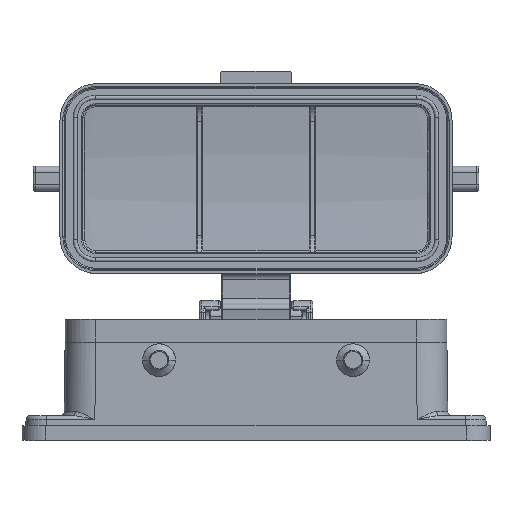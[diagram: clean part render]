
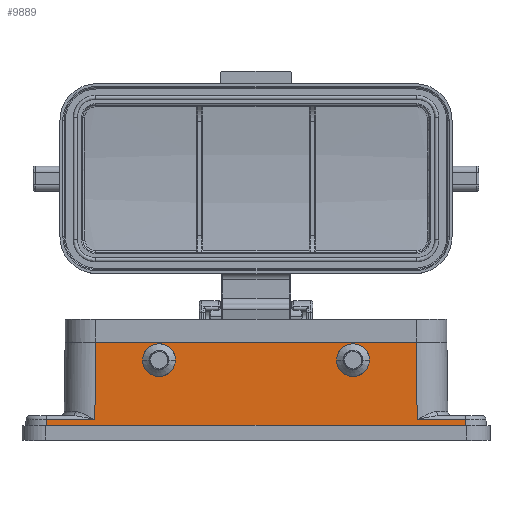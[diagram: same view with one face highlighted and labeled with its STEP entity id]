
A CAD part, top view. The second image highlights one B-rep face of the part: STEP entity #9889.
In plain terms, the highlighted planar face has unit normal (0, 0.011, 1).
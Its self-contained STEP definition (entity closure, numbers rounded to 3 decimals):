
#209 = DIRECTION ( 'NONE',  ( -0.07, -0.998, 0.011 ) ) ;
#406 = CARTESIAN_POINT ( 'NONE',  ( 27.75, 9.6, 21.641 ) ) ;
#1070 = FACE_BOUND ( 'NONE', #13016, .T. ) ;
#1172 =( BOUNDED_CURVE ( )  B_SPLINE_CURVE ( 3, ( #5221, #25931, #5548, #7743 ),
 .UNSPECIFIED., .F., .F. ) 
 B_SPLINE_CURVE_WITH_KNOTS ( ( 4, 4 ),
 ( 1.571, 4.712 ),
 .UNSPECIFIED. ) 
 CURVE ( )  GEOMETRIC_REPRESENTATION_ITEM ( )  RATIONAL_B_SPLINE_CURVE ( ( 1., 0.333, 0.333, 1. ) ) 
 REPRESENTATION_ITEM ( '' )  );
#1485 = CARTESIAN_POINT ( 'NONE',  ( -58.975, 3.011, 21.715 ) ) ;
#2581 = CARTESIAN_POINT ( 'NONE',  ( 51.492, 0., 21.75 ) ) ;
#2585 = ORIENTED_EDGE ( 'NONE', *, *, #14758, .T. ) ;
#2817 =( BOUNDED_CURVE ( )  B_SPLINE_CURVE ( 3, ( #20991, #406, #18292, #5541 ),
 .UNSPECIFIED., .F., .F. ) 
 B_SPLINE_CURVE_WITH_KNOTS ( ( 4, 4 ),
 ( 1.571, 4.712 ),
 .UNSPECIFIED. ) 
 CURVE ( )  GEOMETRIC_REPRESENTATION_ITEM ( )  RATIONAL_B_SPLINE_CURVE ( ( 1., 0.333, 0.333, 1. ) ) 
 REPRESENTATION_ITEM ( '' )  );
#3339 = VERTEX_POINT ( 'NONE', #21936 ) ;
#3520 = CARTESIAN_POINT ( 'NONE',  ( -27.75, 17.6, 21.55 ) ) ;
#3576 = EDGE_CURVE ( 'NONE', #24100, #23076, #4231, .T. ) ;
#3990 = VECTOR ( 'NONE', #31867, 1000. ) ;
#4064 = AXIS2_PLACEMENT_3D ( 'NONE', #24073, #11375, #26888 ) ;
#4231 = LINE ( 'NONE', #20454, #17403 ) ;
#4941 = CARTESIAN_POINT ( 'NONE',  ( -39.25, 22., 21.5 ) ) ;
#5221 = CARTESIAN_POINT ( 'NONE',  ( -27.75, 17.6, 21.55 ) ) ;
#5541 = CARTESIAN_POINT ( 'NONE',  ( 19.75, 17.6, 21.55 ) ) ;
#5548 = CARTESIAN_POINT ( 'NONE',  ( -19.75, 25.6, 21.459 ) ) ;
#5720 = VERTEX_POINT ( 'NONE', #23788 ) ;
#5784 = ORIENTED_EDGE ( 'NONE', *, *, #20562, .T. ) ;
#5795 = CARTESIAN_POINT ( 'NONE',  ( 39.247, 22.306, 21.497 ) ) ;
#5928 = LINE ( 'NONE', #8515, #23950 ) ;
#6735 = ORIENTED_EDGE ( 'NONE', *, *, #3576, .T. ) ;
#7112 = CARTESIAN_POINT ( 'NONE',  ( 39.25, 22., 21.5 ) ) ;
#7386 = CARTESIAN_POINT ( 'NONE',  ( -39.25, 22., 21.5 ) ) ;
#7479 = EDGE_CURVE ( 'NONE', #28603, #20190, #19572, .T. ) ;
#7494 = ORIENTED_EDGE ( 'NONE', *, *, #13603, .T. ) ;
#7743 = CARTESIAN_POINT ( 'NONE',  ( -19.75, 17.6, 21.55 ) ) ;
#8515 = CARTESIAN_POINT ( 'NONE',  ( -58.975, 3.011, 21.715 ) ) ;
#8706 = CARTESIAN_POINT ( 'NONE',  ( -19.75, 17.6, 21.55 ) ) ;
#8969 = VERTEX_POINT ( 'NONE', #12796 ) ;
#9119 = CARTESIAN_POINT ( 'NONE',  ( 51.492, 0., 21.75 ) ) ;
#9271 = DIRECTION ( 'NONE',  ( -1., 0., 0. ) ) ;
#9652 = CARTESIAN_POINT ( 'NONE',  ( 39.466, 3.011, 21.715 ) ) ;
#9889 = ADVANCED_FACE ( 'NONE', ( #1070, #13457, #13019 ), #29043, .T. ) ;
#9982 = DIRECTION ( 'NONE',  ( 1., 0., 0. ) ) ;
#10540 = ORIENTED_EDGE ( 'NONE', *, *, #30590, .T. ) ;
#10686 = CARTESIAN_POINT ( 'NONE',  ( 19.75, 25.6, 21.459 ) ) ;
#11058 = CARTESIAN_POINT ( 'NONE',  ( -27.75, 17.6, 21.55 ) ) ;
#11144 = VECTOR ( 'NONE', #9271, 1000. ) ;
#11280 = VECTOR ( 'NONE', #9982, 1000. ) ;
#11329 = VERTEX_POINT ( 'NONE', #11058 ) ;
#11375 = DIRECTION ( 'NONE',  ( 0., 0.011, 1. ) ) ;
#11963 = CARTESIAN_POINT ( 'NONE',  ( -51.492, 0., 21.75 ) ) ;
#12708 = ORIENTED_EDGE ( 'NONE', *, *, #7479, .F. ) ;
#12796 = CARTESIAN_POINT ( 'NONE',  ( 27.75, 17.6, 21.55 ) ) ;
#12931 = ORIENTED_EDGE ( 'NONE', *, *, #24176, .T. ) ;
#13016 = EDGE_LOOP ( 'NONE', ( #7494, #12931 ) ) ;
#13019 = FACE_OUTER_BOUND ( 'NONE', #29210, .T. ) ;
#13244 = ORIENTED_EDGE ( 'NONE', *, *, #29390, .F. ) ;
#13457 = FACE_BOUND ( 'NONE', #14637, .T. ) ;
#13603 = EDGE_CURVE ( 'NONE', #3339, #11329, #28309, .T. ) ;
#13744 = ORIENTED_EDGE ( 'NONE', *, *, #19833, .T. ) ;
#14079 = LINE ( 'NONE', #25359, #11280 ) ;
#14349 = VECTOR ( 'NONE', #21235, 1000. ) ;
#14618 = VERTEX_POINT ( 'NONE', #9119 ) ;
#14637 = EDGE_LOOP ( 'NONE', ( #13744, #19521 ) ) ;
#14758 = EDGE_CURVE ( 'NONE', #23076, #14618, #14079, .T. ) ;
#16424 = CARTESIAN_POINT ( 'NONE',  ( -27.75, 9.6, 21.641 ) ) ;
#17387 = LINE ( 'NONE', #2581, #30269 ) ;
#17403 = VECTOR ( 'NONE', #209, 1000. ) ;
#18292 = CARTESIAN_POINT ( 'NONE',  ( 19.75, 9.6, 21.641 ) ) ;
#18346 = CARTESIAN_POINT ( 'NONE',  ( 19.75, 17.6, 21.55 ) ) ;
#18815 = LINE ( 'NONE', #4941, #26458 ) ;
#19521 = ORIENTED_EDGE ( 'NONE', *, *, #27552, .T. ) ;
#19572 = LINE ( 'NONE', #5795, #14349 ) ;
#19698 = EDGE_CURVE ( 'NONE', #30926, #21773, #18815, .T. ) ;
#19833 = EDGE_CURVE ( 'NONE', #33028, #8969, #26002, .T. ) ;
#20190 = VERTEX_POINT ( 'NONE', #9652 ) ;
#20454 = CARTESIAN_POINT ( 'NONE',  ( -51.281, 3.011, 21.715 ) ) ;
#20562 = EDGE_CURVE ( 'NONE', #21773, #24100, #22371, .T. ) ;
#20991 = CARTESIAN_POINT ( 'NONE',  ( 27.75, 17.6, 21.55 ) ) ;
#21149 = CARTESIAN_POINT ( 'NONE',  ( 27.75, 17.6, 21.55 ) ) ;
#21235 = DIRECTION ( 'NONE',  ( 0.011, -1., 0.011 ) ) ;
#21773 = VERTEX_POINT ( 'NONE', #25165 ) ;
#21936 = CARTESIAN_POINT ( 'NONE',  ( -19.75, 17.6, 21.55 ) ) ;
#22371 = LINE ( 'NONE', #1485, #11144 ) ;
#22918 = DIRECTION ( 'NONE',  ( -0.07, 0.998, -0.011 ) ) ;
#23076 = VERTEX_POINT ( 'NONE', #11963 ) ;
#23267 = DIRECTION ( 'NONE',  ( -0.011, -1., 0.011 ) ) ;
#23583 = ORIENTED_EDGE ( 'NONE', *, *, #19698, .T. ) ;
#23788 = CARTESIAN_POINT ( 'NONE',  ( 51.281, 3.011, 21.715 ) ) ;
#23950 = VECTOR ( 'NONE', #29093, 1000. ) ;
#24073 = CARTESIAN_POINT ( 'NONE',  ( -58.975, 22., 21.5 ) ) ;
#24100 = VERTEX_POINT ( 'NONE', #24914 ) ;
#24176 = EDGE_CURVE ( 'NONE', #11329, #3339, #1172, .T. ) ;
#24914 = CARTESIAN_POINT ( 'NONE',  ( -51.281, 3.011, 21.715 ) ) ;
#25165 = CARTESIAN_POINT ( 'NONE',  ( -39.466, 3.011, 21.715 ) ) ;
#25359 = CARTESIAN_POINT ( 'NONE',  ( 0., 0., 21.75 ) ) ;
#25931 = CARTESIAN_POINT ( 'NONE',  ( -27.75, 25.6, 21.459 ) ) ;
#26002 =( BOUNDED_CURVE ( )  B_SPLINE_CURVE ( 3, ( #18346, #10686, #31158, #21149 ),
 .UNSPECIFIED., .F., .F. ) 
 B_SPLINE_CURVE_WITH_KNOTS ( ( 4, 4 ),
 ( 4.712, 7.854 ),
 .UNSPECIFIED. ) 
 CURVE ( )  GEOMETRIC_REPRESENTATION_ITEM ( )  RATIONAL_B_SPLINE_CURVE ( ( 1., 0.333, 0.333, 1. ) ) 
 REPRESENTATION_ITEM ( '' )  );
#26391 = LINE ( 'NONE', #28615, #3990 ) ;
#26458 = VECTOR ( 'NONE', #23267, 1000. ) ;
#26888 = DIRECTION ( 'NONE',  ( 0., -1., 0.011 ) ) ;
#27552 = EDGE_CURVE ( 'NONE', #8969, #33028, #2817, .T. ) ;
#28309 =( BOUNDED_CURVE ( )  B_SPLINE_CURVE ( 3, ( #8706, #31737, #16424, #3520 ),
 .UNSPECIFIED., .F., .F. ) 
 B_SPLINE_CURVE_WITH_KNOTS ( ( 4, 4 ),
 ( 4.712, 7.854 ),
 .UNSPECIFIED. ) 
 CURVE ( )  GEOMETRIC_REPRESENTATION_ITEM ( )  RATIONAL_B_SPLINE_CURVE ( ( 1., 0.333, 0.333, 1. ) ) 
 REPRESENTATION_ITEM ( '' )  );
#28603 = VERTEX_POINT ( 'NONE', #7112 ) ;
#28615 = CARTESIAN_POINT ( 'NONE',  ( 0., 22., 21.5 ) ) ;
#29043 = PLANE ( 'NONE',  #4064 ) ;
#29093 = DIRECTION ( 'NONE',  ( -1., 0., 0. ) ) ;
#29210 = EDGE_LOOP ( 'NONE', ( #33215, #10540, #12708, #13244, #23583, #5784, #6735, #2585 ) ) ;
#29390 = EDGE_CURVE ( 'NONE', #30926, #28603, #26391, .T. ) ;
#30269 = VECTOR ( 'NONE', #22918, 1000. ) ;
#30590 = EDGE_CURVE ( 'NONE', #5720, #20190, #5928, .T. ) ;
#30926 = VERTEX_POINT ( 'NONE', #7386 ) ;
#31158 = CARTESIAN_POINT ( 'NONE',  ( 27.75, 25.6, 21.459 ) ) ;
#31705 = CARTESIAN_POINT ( 'NONE',  ( 19.75, 17.6, 21.55 ) ) ;
#31737 = CARTESIAN_POINT ( 'NONE',  ( -19.75, 9.6, 21.641 ) ) ;
#31867 = DIRECTION ( 'NONE',  ( 1., 0., 0. ) ) ;
#32801 = EDGE_CURVE ( 'NONE', #14618, #5720, #17387, .T. ) ;
#33028 = VERTEX_POINT ( 'NONE', #31705 ) ;
#33215 = ORIENTED_EDGE ( 'NONE', *, *, #32801, .T. ) ;
